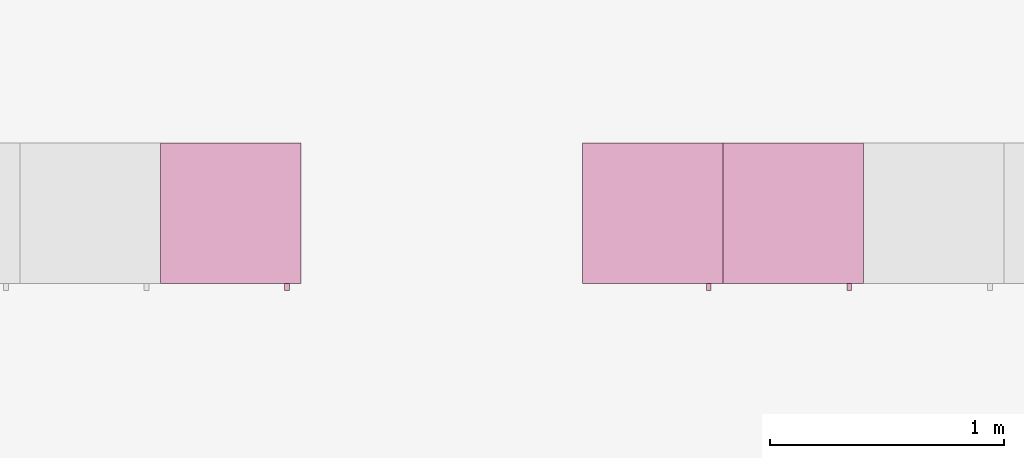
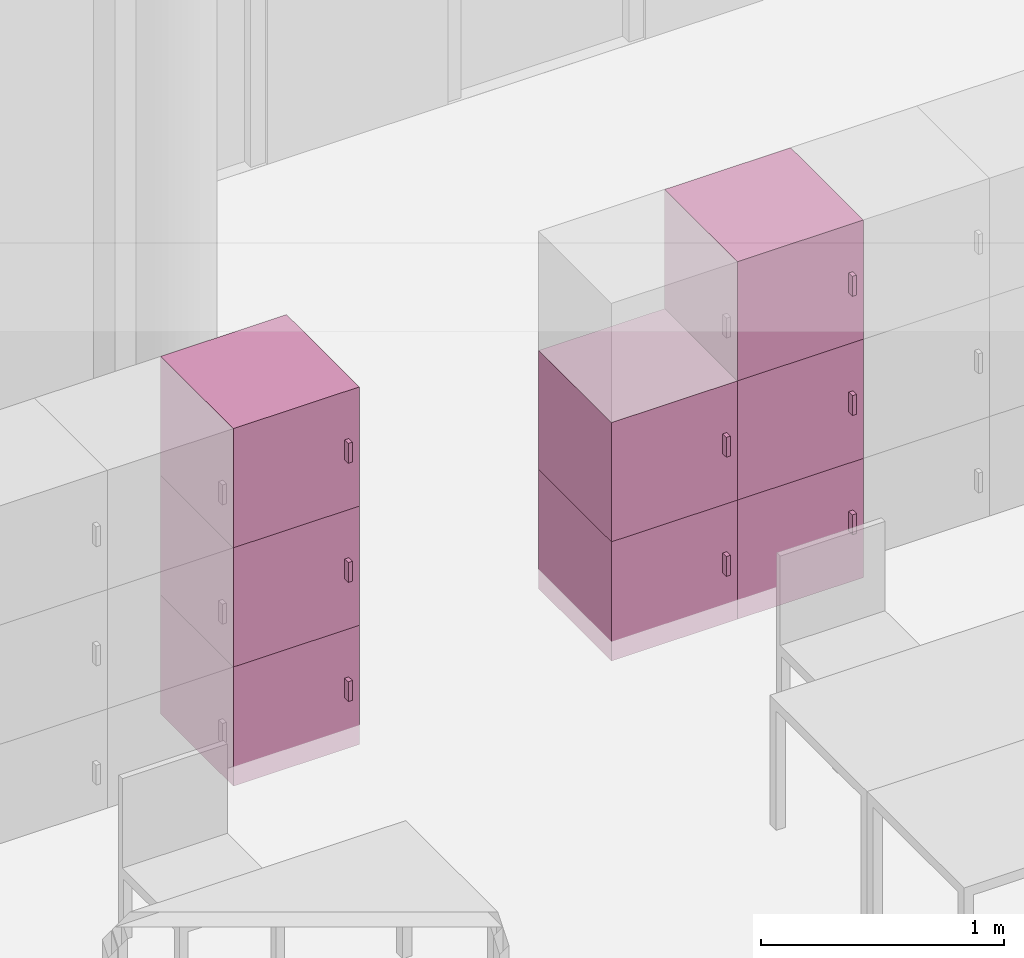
"""IFC4 building model written with IfcOpenShell, lengths in metres."""

import ifcopenshell
import ifcopenshell.guid

model = None  # the IFC model being written
_history = None  # IfcOwnerHistory: only IFC2X3 demands one
_inside = {}  # id of a spatial element -> (the spatial element, [elements in it])
_under = {}  # id of a project, library or spatial element -> (it, [spatial elements below it])
_declared = {}  # id of a project -> (the project, [libraries it declares])
_typed = {}  # id of a type object -> (the type object, [elements of that type])
_made_of = {}  # id of a material, layer set ... -> (it, [elements and type objects made of it])


def new_model(schema):
    """Start an empty IFC model of exactly this schema.

    Asked for "IFC4X3", IfcOpenShell would pick the latest addendum, in which some entities
    have other attributes; the version numbers below select the first issue.
    IFC2X3 requires an IfcOwnerHistory on every rooted entity: one is made here for all.
    """
    global model, _history
    if schema == "IFC4X3":
        model = ifcopenshell.file(schema_version=(4, 3, 0, 0))
    else:
        model = ifcopenshell.file(schema=schema)
    _inside.clear()
    _under.clear()
    _declared.clear()
    _typed.clear()
    _made_of.clear()
    _history = None
    if model.schema == "IFC2X3":
        org = make("IfcOrganization", Name="unknown")
        user = make(
            "IfcPersonAndOrganization",
            ThePerson=make("IfcPerson", FamilyName="unknown"),
            TheOrganization=org,
        )
        app = make(
            "IfcApplication",
            ApplicationDeveloper=org,
            Version="unknown",
            ApplicationFullName="unknown",
            ApplicationIdentifier="unknown",
        )
        _history = make(
            "IfcOwnerHistory",
            OwningUser=user,
            OwningApplication=app,
            ChangeAction="ADDED",
            CreationDate=0,
        )
    return model


def make(cls, **values):
    """One entity of the class cls with the attributes given. An attribute that is None is left unset."""
    return model.create_entity(
        cls, **{name: value for name, value in values.items() if value is not None}
    )


def entity(cls, *values):
    """Any entity or typed value of the class cls, its attributes in the order of the schema. None: left unset."""
    e = model.create_entity(cls)
    for i, value in enumerate(values):
        if value is not None:
            e[i] = value
    return e


def rooted(cls, **values):
    """An entity with a GlobalId (a new one), such as an element, a storey or a relation."""
    return make(cls, GlobalId=ifcopenshell.guid.new(), OwnerHistory=_history, **values)


def si_unit(unit_type, name, prefix=None):
    """IfcSIUnit, for example si_unit("LENGTHUNIT", "METRE", prefix="MILLI")."""
    return make("IfcSIUnit", UnitType=unit_type, Prefix=prefix, Name=name)


def converted_unit(unit_type, name, factor, base, dimensions=None, offset=None):
    """IfcConversionBasedUnit, such as the inch: factor (a typed value) times the base unit."""
    return make(
        "IfcConversionBasedUnit"
        if offset is None
        else "IfcConversionBasedUnitWithOffset",
        ConversionOffset=offset,
        Dimensions=None
        if dimensions is None
        else entity("IfcDimensionalExponents", *dimensions),
        UnitType=unit_type,
        Name=name,
        ConversionFactor=make(
            "IfcMeasureWithUnit", ValueComponent=factor, UnitComponent=base
        ),
    )


def derived_unit(unit_type, elements):
    """IfcDerivedUnit: a product of units, each with its exponent."""
    return make(
        "IfcDerivedUnit",
        Elements=[
            make("IfcDerivedUnitElement", Unit=unit, Exponent=power)
            for unit, power in elements
        ],
        UnitType=unit_type,
    )


def assignment(units):
    """IfcUnitAssignment: the units of a project."""
    return None if units is None else make("IfcUnitAssignment", Units=units)


def point(xyz):
    """IfcCartesianPoint."""
    return None if xyz is None else make("IfcCartesianPoint", Coordinates=xyz)


def direction(xyz):
    """IfcDirection."""
    return None if xyz is None else make("IfcDirection", DirectionRatios=xyz)


def frame(location, z_axis=None, x_axis=None):
    """IfcAxis2Placement3D, a coordinate frame: its origin and axes. An axis left out is left unset."""
    return make(
        "IfcAxis2Placement3D",
        Location=point(location),
        Axis=direction(z_axis),
        RefDirection=direction(x_axis),
    )


def origin():
    """The frame at (0, 0, 0) with its axes left unset."""
    return frame((0.0, 0.0, 0.0))


def place(relative_to, where):
    """IfcLocalPlacement: puts the frame where relative to a parent placement (None: the world)."""
    return make(
        "IfcLocalPlacement", PlacementRelTo=relative_to, RelativePlacement=where
    )


def context(
    kind, dimensions, precision=None, world=None, true_north=None, identifier=None
):
    """IfcGeometricRepresentationContext, for example the 3D "Model" context."""
    return make(
        "IfcGeometricRepresentationContext",
        ContextIdentifier=identifier,
        ContextType=kind,
        CoordinateSpaceDimension=dimensions,
        Precision=precision,
        WorldCoordinateSystem=world,
        TrueNorth=true_north,
    )


def subcontext(parent, identifier, kind, view, scale=None):
    """IfcGeometricRepresentationSubContext, for example "Body" below "Model"."""
    return make(
        "IfcGeometricRepresentationSubContext",
        ContextIdentifier=identifier,
        ContextType=kind,
        ParentContext=parent,
        TargetScale=scale,
        TargetView=view,
    )


def project(units=None, contexts=None):
    """IfcProject with its units and contexts."""
    return rooted(
        "IfcProject",
        Name="project",
        RepresentationContexts=contexts,
        UnitsInContext=assignment(units),
    )


def spatial(cls, under=None, at=None, **own):
    """A site, building, storey or space (cls), placed at a placement, below another one or the project."""
    s = rooted(cls, ObjectPlacement=at, **own)
    if under is not None:
        _under.setdefault(under.id(), (under, []))[1].append(s)
    return s


def faces_of(points, faces, orient=None, outer=None):
    """IfcFace entities. A face is a list of loops; a loop is a list of indices into points, from 0.

    orient and outer hold one flag for each loop. By default every Orientation is true, the
    first loop of a face is its IfcFaceOuterBound and the others are IfcFaceBound.
    """
    made = []
    for i, loops in enumerate(faces):
        bounds = []
        for j, loop in enumerate(loops):
            is_outer = j == 0 if outer is None else outer[i][j]
            bounds.append(
                make(
                    "IfcFaceOuterBound" if is_outer else "IfcFaceBound",
                    Bound=make("IfcPolyLoop", Polygon=[points[k] for k in loop]),
                    Orientation=True if orient is None else orient[i][j],
                )
            )
        made.append(make("IfcFace", Bounds=bounds))
    return made


def faceted_brep(points, faces, orient=None, outer=None, voids=None):
    """IfcFacetedBrep: a solid bounded by flat faces; with voids (closed shells), ...WithVoids."""
    shared = [point(p) for p in points]
    hull = make("IfcClosedShell", CfsFaces=faces_of(shared, faces, orient, outer))
    if voids is None:
        return make("IfcFacetedBrep", Outer=hull)
    return make(
        "IfcFacetedBrepWithVoids",
        Outer=hull,
        Voids=[
            make(cls, CfsFaces=faces_of(shared, fs, o, b)) for cls, fs, o, b in voids
        ],
    )


def shape(context_of_items, identifier, shape_type, items):
    """IfcShapeRepresentation: the items that make up one representation, for example the "Body"."""
    return make(
        "IfcShapeRepresentation",
        ContextOfItems=context_of_items,
        RepresentationIdentifier=identifier,
        RepresentationType=shape_type,
        Items=items,
    )


def made_of(thing, what):
    """Note that an element or type object is made of a material, layer set ...; save() writes the relation."""
    if what is not None:
        _made_of.setdefault(what.id(), (what, []))[1].append(thing)
    return thing


def element(
    cls,
    number,
    at=None,
    inside=None,
    cuts=None,
    type_object=None,
    material=None,
    context=None,
    identifier="Body",
    shape_type=None,
    held_by="IfcProductDefinitionShape",
    body=None,
    shapes=None,
    **own,
):
    """One element of the class cls, such as IfcWall. Its Tag is "e" and its number.

    at: its placement. inside: the storey or other place that contains it. cuts: it is an
    opening in that element (IfcRelVoidsElement). A single representation is given by context,
    identifier, shape_type and body (its items); several are given by shapes. held_by: the class
    of the entity that holds the representations. save() writes the other relations.
    """
    e = rooted(cls, Tag="e%d" % number, ObjectPlacement=at, **own)
    if body is not None:
        shapes = [shape(context, identifier, shape_type, body)]
    if shapes is not None:
        e.Representation = make(held_by, Representations=shapes)
    if inside is not None:
        _inside.setdefault(inside.id(), (inside, []))[1].append(e)
    if cuts is not None:
        rooted(
            "IfcRelVoidsElement", RelatingBuildingElement=cuts, RelatedOpeningElement=e
        )
    if type_object is not None:
        _typed.setdefault(type_object.id(), (type_object, []))[1].append(e)
    return made_of(e, material)


def aggregate(whole, parts):
    """IfcRelAggregates: a whole, such as a stair, and the parts it consists of."""
    return rooted("IfcRelAggregates", RelatingObject=whole, RelatedObjects=parts)


def save(model, path):
    """Write the relations noted so far, then the file.

    IfcRelAggregates (storeys below a building ...), IfcRelContainedInSpatialStructure (elements
    in a storey), IfcRelDefinesByType, IfcRelAssociatesMaterial and IfcRelDeclares: one each for
    every whole, place, type object, material and project.
    """
    for whole, parts in _under.values():
        aggregate(whole, parts)
    for where, things in _inside.values():
        rooted(
            "IfcRelContainedInSpatialStructure",
            RelatedElements=things,
            RelatingStructure=where,
        )
    for kind, things in _typed.values():
        rooted("IfcRelDefinesByType", RelatedObjects=things, RelatingType=kind)
    for what, things in _made_of.values():
        rooted("IfcRelAssociatesMaterial", RelatedObjects=things, RelatingMaterial=what)
    for by, libraries in _declared.values():
        rooted("IfcRelDeclares", RelatingContext=by, RelatedDefinitions=libraries)
    model.write(path)


model = new_model("IFC4")

# Units and contexts
model_context = context("Model", 3, precision=1e-05, world=origin())
body_context = subcontext(model_context, "Body", "Model", "MODEL_VIEW")
ifc_project = project(units=[si_unit("LENGTHUNIT", "METRE"), si_unit("AREAUNIT", "SQUARE_METRE"), si_unit("VOLUMEUNIT", "CUBIC_METRE"), si_unit("MASSUNIT", "GRAM", prefix="KILO"), converted_unit("PLANEANGLEUNIT", "DEGREE", entity("IfcPlaneAngleMeasure", 0.0174532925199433), si_unit("PLANEANGLEUNIT", "RADIAN"), dimensions=[0, 0, 0, 0, 0, 0, 0]), derived_unit("THERMALTRANSMITTANCEUNIT", [(si_unit("POWERUNIT", "WATT"), 1), (si_unit("THERMODYNAMICTEMPERATUREUNIT", "KELVIN"), -1), (si_unit("LENGTHUNIT", "METRE"), -2)]), derived_unit("VOLUMETRICFLOWRATEUNIT", [(si_unit("LENGTHUNIT", "METRE"), 3), (converted_unit("TIMEUNIT", "hour", entity("IfcTimeMeasure", 3600.0), si_unit("TIMEUNIT", "SECOND"), dimensions=[0, 0, 1, 0, 0, 0, 0]), -1), (si_unit("LENGTHUNIT", "METRE"), -1)])], contexts=[model_context])

# Building, storeys
building_placement = place(None, origin())
building = spatial("IfcBuilding", under=ifc_project, at=building_placement, Name="HABITATGE PLURIFAMILIAR", CompositionType="ELEMENT")
storey_1_placement = place(building_placement, frame((0.0, 0.0, 15.28)))
storey_1 = spatial("IfcBuildingStorey", under=building, at=storey_1_placement, Name="PLANTA QUARTA", CompositionType="ELEMENT", Elevation=15.28)
storey_2_placement = place(storey_1_placement, frame((0.0, 0.0, 12.27)))
storey_2 = spatial("IfcBuildingStorey", under=storey_1, at=storey_2_placement, Name="NOU", CompositionType="PARTIAL")

# Furniture
furniture_1_placement = place(storey_2_placement, frame((419.982081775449, 21.5873137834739, -12.37)))
element("IfcFurniture", 1, at=furniture_1_placement, inside=storey_2, Name="Armai 60x60x60_P4", context=body_context, shape_type="Brep", body=[
    faceted_brep([(0.600000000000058, 0.0300000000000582, 0.02), (0.600000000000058, 0.0300000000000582, 0.0), (0.0, 0.0300000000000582, 0.0), (0.0, 0.0300000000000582, 0.02), (0.0, 0.630000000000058, 0.0), (0.0, 0.630000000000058, 0.02), (0.600000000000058, 0.630000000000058, 0.0), (0.600000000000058, 0.630000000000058, 0.02)], [[[0, 1, 2, 3]], [[3, 2, 4, 5]], [[5, 4, 6, 7]], [[7, 6, 1, 0]], [[0, 3, 5, 7]], [[1, 6, 4, 2]]], orient=[[False], [False], [False], [False], [False], [False]]),
    faceted_brep([(0.02, 0.63, 0.58), (0.02, 0.61, 0.58), (0.02, 0.61, 0.02), (0.02, 0.63, 0.02), (0.58, 0.61, 0.02), (0.58, 0.63, 0.02), (0.58, 0.61, 0.58), (0.58, 0.63, 0.58)], [[[0, 1, 2, 3]], [[3, 2, 4, 5]], [[5, 4, 6, 7]], [[7, 6, 1, 0]], [[0, 3, 5, 7]], [[1, 6, 4, 2]]], orient=[[False], [False], [False], [False], [False], [False]]),
    faceted_brep([(0.58, 0.0300000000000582, 0.58), (0.6, 0.0300000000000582, 0.58), (0.6, 0.0300000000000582, 0.02), (0.58, 0.0300000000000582, 0.02), (0.6, 0.630000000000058, 0.02), (0.58, 0.630000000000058, 0.02), (0.6, 0.630000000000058, 0.58), (0.58, 0.630000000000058, 0.58)], [[[0, 1, 2, 3]], [[3, 2, 4, 5]], [[5, 4, 6, 7]], [[7, 6, 1, 0]], [[0, 3, 5, 7]], [[1, 6, 4, 2]]], orient=[[False], [False], [False], [False], [False], [False]]),
    faceted_brep([(0.600000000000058, 0.0500000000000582, 0.58), (0.600000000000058, 0.0300000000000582, 0.58), (0.600000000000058, 0.0300000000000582, 0.02), (0.600000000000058, 0.0500000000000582, 0.02), (0.580000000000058, 0.0300000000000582, 0.02), (0.580000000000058, 0.0500000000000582, 0.02), (0.580000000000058, 0.0300000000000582, 0.58), (0.580000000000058, 0.0500000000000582, 0.58)], [[[0, 1, 2, 3]], [[3, 2, 4, 5]], [[5, 4, 6, 7]], [[7, 6, 1, 0]], [[0, 3, 5, 7]], [[1, 6, 4, 2]]], orient=[[False], [False], [False], [False], [False], [False]]),
    faceted_brep([(0.0, 0.0300000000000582, 0.58), (0.0200000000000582, 0.0300000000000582, 0.58), (0.0200000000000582, 0.0300000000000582, 0.02), (0.0, 0.0300000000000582, 0.02), (0.0200000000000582, 0.630000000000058, 0.02), (0.0, 0.630000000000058, 0.02), (0.0200000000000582, 0.630000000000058, 0.58), (0.0, 0.630000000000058, 0.58)], [[[0, 1, 2, 3]], [[3, 2, 4, 5]], [[5, 4, 6, 7]], [[7, 6, 1, 0]], [[0, 3, 5, 7]], [[1, 6, 4, 2]]], orient=[[False], [False], [False], [False], [False], [False]]),
    faceted_brep([(0.6, 0.03, 0.6), (0.6, 0.03, 0.58), (0.0, 0.03, 0.58), (0.0, 0.03, 0.6), (0.0, 0.63, 0.58), (0.0, 0.63, 0.6), (0.6, 0.63, 0.58), (0.6, 0.63, 0.6)], [[[0, 1, 2, 3]], [[3, 2, 4, 5]], [[5, 4, 6, 7]], [[7, 6, 1, 0]], [[0, 3, 5, 7]], [[1, 6, 4, 2]]], orient=[[False], [False], [False], [False], [False], [False]]),
    faceted_brep([(0.02, 0.05, 0.58), (0.02, 0.03, 0.58), (0.02, 0.03, 0.02), (0.02, 0.05, 0.02), (0.580000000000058, 0.03, 0.02), (0.580000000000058, 0.05, 0.02), (0.580000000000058, 0.03, 0.58), (0.580000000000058, 0.05, 0.58)], [[[0, 1, 2, 3]], [[3, 2, 4, 5]], [[5, 4, 6, 7]], [[7, 6, 1, 0]], [[0, 3, 5, 7]], [[1, 6, 4, 2]]], orient=[[False], [False], [False], [False], [False], [False]]),
    faceted_brep([(0.53, 0.03, 0.358064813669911), (0.53, 0.0, 0.358064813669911), (0.53, 0.0, 0.258064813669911), (0.53, 0.03, 0.258064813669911), (0.55, 0.0, 0.258064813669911), (0.55, 0.03, 0.258064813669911), (0.55, 0.0, 0.358064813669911), (0.55, 0.03, 0.358064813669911)], [[[0, 1, 2, 3]], [[3, 2, 4, 5]], [[5, 4, 6, 7]], [[7, 6, 1, 0]], [[0, 3, 5, 7]], [[1, 6, 4, 2]]], orient=[[False], [False], [False], [False], [False], [False]]),
])
furniture_2_placement = place(storey_2_placement, frame((419.982081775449, 21.5873137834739, -11.77)))
element("IfcFurniture", 2, at=furniture_2_placement, inside=storey_2, Name="Armai 60x60x60_P4", context=body_context, shape_type="Brep", body=[
    faceted_brep([(0.600000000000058, 0.0300000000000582, 0.02), (0.600000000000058, 0.0300000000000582, 0.0), (0.0, 0.0300000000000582, 0.0), (0.0, 0.0300000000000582, 0.02), (0.0, 0.630000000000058, 0.0), (0.0, 0.630000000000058, 0.02), (0.600000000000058, 0.630000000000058, 0.0), (0.600000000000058, 0.630000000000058, 0.02)], [[[0, 1, 2, 3]], [[3, 2, 4, 5]], [[5, 4, 6, 7]], [[7, 6, 1, 0]], [[0, 3, 5, 7]], [[1, 6, 4, 2]]], orient=[[False], [False], [False], [False], [False], [False]]),
    faceted_brep([(0.02, 0.63, 0.58), (0.02, 0.61, 0.58), (0.02, 0.61, 0.02), (0.02, 0.63, 0.02), (0.58, 0.61, 0.02), (0.58, 0.63, 0.02), (0.58, 0.61, 0.58), (0.58, 0.63, 0.58)], [[[0, 1, 2, 3]], [[3, 2, 4, 5]], [[5, 4, 6, 7]], [[7, 6, 1, 0]], [[0, 3, 5, 7]], [[1, 6, 4, 2]]], orient=[[False], [False], [False], [False], [False], [False]]),
    faceted_brep([(0.58, 0.0300000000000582, 0.58), (0.6, 0.0300000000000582, 0.58), (0.6, 0.0300000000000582, 0.02), (0.58, 0.0300000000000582, 0.02), (0.6, 0.630000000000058, 0.02), (0.58, 0.630000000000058, 0.02), (0.6, 0.630000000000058, 0.58), (0.58, 0.630000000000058, 0.58)], [[[0, 1, 2, 3]], [[3, 2, 4, 5]], [[5, 4, 6, 7]], [[7, 6, 1, 0]], [[0, 3, 5, 7]], [[1, 6, 4, 2]]], orient=[[False], [False], [False], [False], [False], [False]]),
    faceted_brep([(0.600000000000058, 0.0500000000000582, 0.58), (0.600000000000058, 0.0300000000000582, 0.58), (0.600000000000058, 0.0300000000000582, 0.02), (0.600000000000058, 0.0500000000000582, 0.02), (0.580000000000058, 0.0300000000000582, 0.02), (0.580000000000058, 0.0500000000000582, 0.02), (0.580000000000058, 0.0300000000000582, 0.58), (0.580000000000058, 0.0500000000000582, 0.58)], [[[0, 1, 2, 3]], [[3, 2, 4, 5]], [[5, 4, 6, 7]], [[7, 6, 1, 0]], [[0, 3, 5, 7]], [[1, 6, 4, 2]]], orient=[[False], [False], [False], [False], [False], [False]]),
    faceted_brep([(0.0, 0.0300000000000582, 0.58), (0.0200000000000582, 0.0300000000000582, 0.58), (0.0200000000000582, 0.0300000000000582, 0.02), (0.0, 0.0300000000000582, 0.02), (0.0200000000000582, 0.630000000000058, 0.02), (0.0, 0.630000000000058, 0.02), (0.0200000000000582, 0.630000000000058, 0.58), (0.0, 0.630000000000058, 0.58)], [[[0, 1, 2, 3]], [[3, 2, 4, 5]], [[5, 4, 6, 7]], [[7, 6, 1, 0]], [[0, 3, 5, 7]], [[1, 6, 4, 2]]], orient=[[False], [False], [False], [False], [False], [False]]),
    faceted_brep([(0.6, 0.03, 0.6), (0.6, 0.03, 0.58), (0.0, 0.03, 0.58), (0.0, 0.03, 0.6), (0.0, 0.63, 0.58), (0.0, 0.63, 0.6), (0.6, 0.63, 0.58), (0.6, 0.63, 0.6)], [[[0, 1, 2, 3]], [[3, 2, 4, 5]], [[5, 4, 6, 7]], [[7, 6, 1, 0]], [[0, 3, 5, 7]], [[1, 6, 4, 2]]], orient=[[False], [False], [False], [False], [False], [False]]),
    faceted_brep([(0.02, 0.05, 0.58), (0.02, 0.03, 0.58), (0.02, 0.03, 0.02), (0.02, 0.05, 0.02), (0.580000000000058, 0.03, 0.02), (0.580000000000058, 0.05, 0.02), (0.580000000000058, 0.03, 0.58), (0.580000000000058, 0.05, 0.58)], [[[0, 1, 2, 3]], [[3, 2, 4, 5]], [[5, 4, 6, 7]], [[7, 6, 1, 0]], [[0, 3, 5, 7]], [[1, 6, 4, 2]]], orient=[[False], [False], [False], [False], [False], [False]]),
    faceted_brep([(0.53, 0.03, 0.358064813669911), (0.53, 0.0, 0.358064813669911), (0.53, 0.0, 0.258064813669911), (0.53, 0.03, 0.258064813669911), (0.55, 0.0, 0.258064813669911), (0.55, 0.03, 0.258064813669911), (0.55, 0.0, 0.358064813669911), (0.55, 0.03, 0.358064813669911)], [[[0, 1, 2, 3]], [[3, 2, 4, 5]], [[5, 4, 6, 7]], [[7, 6, 1, 0]], [[0, 3, 5, 7]], [[1, 6, 4, 2]]], orient=[[False], [False], [False], [False], [False], [False]]),
])
furniture_3_placement = place(storey_2_placement, frame((419.982081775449, 21.5873137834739, -11.17)))
element("IfcFurniture", 3, at=furniture_3_placement, inside=storey_2, Name="Armai 60x60x60_P4", context=body_context, shape_type="Brep", body=[
    faceted_brep([(0.600000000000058, 0.0300000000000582, 0.02), (0.600000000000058, 0.0300000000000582, 0.0), (0.0, 0.0300000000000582, 0.0), (0.0, 0.0300000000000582, 0.02), (0.0, 0.630000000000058, 0.0), (0.0, 0.630000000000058, 0.02), (0.600000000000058, 0.630000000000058, 0.0), (0.600000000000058, 0.630000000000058, 0.02)], [[[0, 1, 2, 3]], [[3, 2, 4, 5]], [[5, 4, 6, 7]], [[7, 6, 1, 0]], [[0, 3, 5, 7]], [[1, 6, 4, 2]]], orient=[[False], [False], [False], [False], [False], [False]]),
    faceted_brep([(0.02, 0.63, 0.58), (0.02, 0.61, 0.58), (0.02, 0.61, 0.02), (0.02, 0.63, 0.02), (0.58, 0.61, 0.02), (0.58, 0.63, 0.02), (0.58, 0.61, 0.58), (0.58, 0.63, 0.58)], [[[0, 1, 2, 3]], [[3, 2, 4, 5]], [[5, 4, 6, 7]], [[7, 6, 1, 0]], [[0, 3, 5, 7]], [[1, 6, 4, 2]]], orient=[[False], [False], [False], [False], [False], [False]]),
    faceted_brep([(0.58, 0.0300000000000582, 0.58), (0.6, 0.0300000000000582, 0.58), (0.6, 0.0300000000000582, 0.02), (0.58, 0.0300000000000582, 0.02), (0.6, 0.630000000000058, 0.02), (0.58, 0.630000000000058, 0.02), (0.6, 0.630000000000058, 0.58), (0.58, 0.630000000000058, 0.58)], [[[0, 1, 2, 3]], [[3, 2, 4, 5]], [[5, 4, 6, 7]], [[7, 6, 1, 0]], [[0, 3, 5, 7]], [[1, 6, 4, 2]]], orient=[[False], [False], [False], [False], [False], [False]]),
    faceted_brep([(0.600000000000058, 0.0500000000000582, 0.58), (0.600000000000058, 0.0300000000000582, 0.58), (0.600000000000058, 0.0300000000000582, 0.02), (0.600000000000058, 0.0500000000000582, 0.02), (0.580000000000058, 0.0300000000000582, 0.02), (0.580000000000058, 0.0500000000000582, 0.02), (0.580000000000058, 0.0300000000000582, 0.58), (0.580000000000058, 0.0500000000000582, 0.58)], [[[0, 1, 2, 3]], [[3, 2, 4, 5]], [[5, 4, 6, 7]], [[7, 6, 1, 0]], [[0, 3, 5, 7]], [[1, 6, 4, 2]]], orient=[[False], [False], [False], [False], [False], [False]]),
    faceted_brep([(0.0, 0.0300000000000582, 0.58), (0.0200000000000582, 0.0300000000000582, 0.58), (0.0200000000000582, 0.0300000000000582, 0.02), (0.0, 0.0300000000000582, 0.02), (0.0200000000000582, 0.630000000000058, 0.02), (0.0, 0.630000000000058, 0.02), (0.0200000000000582, 0.630000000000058, 0.58), (0.0, 0.630000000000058, 0.58)], [[[0, 1, 2, 3]], [[3, 2, 4, 5]], [[5, 4, 6, 7]], [[7, 6, 1, 0]], [[0, 3, 5, 7]], [[1, 6, 4, 2]]], orient=[[False], [False], [False], [False], [False], [False]]),
    faceted_brep([(0.6, 0.03, 0.6), (0.6, 0.03, 0.58), (0.0, 0.03, 0.58), (0.0, 0.03, 0.6), (0.0, 0.63, 0.58), (0.0, 0.63, 0.6), (0.6, 0.63, 0.58), (0.6, 0.63, 0.6)], [[[0, 1, 2, 3]], [[3, 2, 4, 5]], [[5, 4, 6, 7]], [[7, 6, 1, 0]], [[0, 3, 5, 7]], [[1, 6, 4, 2]]], orient=[[False], [False], [False], [False], [False], [False]]),
    faceted_brep([(0.02, 0.05, 0.58), (0.02, 0.03, 0.58), (0.02, 0.03, 0.02), (0.02, 0.05, 0.02), (0.580000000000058, 0.03, 0.02), (0.580000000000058, 0.05, 0.02), (0.580000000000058, 0.03, 0.58), (0.580000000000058, 0.05, 0.58)], [[[0, 1, 2, 3]], [[3, 2, 4, 5]], [[5, 4, 6, 7]], [[7, 6, 1, 0]], [[0, 3, 5, 7]], [[1, 6, 4, 2]]], orient=[[False], [False], [False], [False], [False], [False]]),
    faceted_brep([(0.53, 0.03, 0.358064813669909), (0.53, 0.0, 0.358064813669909), (0.53, 0.0, 0.258064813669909), (0.53, 0.03, 0.258064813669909), (0.55, 0.0, 0.258064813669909), (0.55, 0.03, 0.258064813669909), (0.55, 0.0, 0.358064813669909), (0.55, 0.03, 0.358064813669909)], [[[0, 1, 2, 3]], [[3, 2, 4, 5]], [[5, 4, 6, 7]], [[7, 6, 1, 0]], [[0, 3, 5, 7]], [[1, 6, 4, 2]]], orient=[[False], [False], [False], [False], [False], [False]]),
])
furniture_4_placement = place(storey_2_placement, frame((422.382081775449, 21.587313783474, -12.37)))
element("IfcFurniture", 4, at=furniture_4_placement, inside=storey_2, Name="Armai 60x60x60_P4", context=body_context, shape_type="Brep", body=[
    faceted_brep([(0.600000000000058, 0.0300000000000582, 0.02), (0.600000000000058, 0.0300000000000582, 0.0), (0.0, 0.0300000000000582, 0.0), (0.0, 0.0300000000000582, 0.02), (0.0, 0.630000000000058, 0.0), (0.0, 0.630000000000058, 0.02), (0.600000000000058, 0.630000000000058, 0.0), (0.600000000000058, 0.630000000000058, 0.02)], [[[0, 1, 2, 3]], [[3, 2, 4, 5]], [[5, 4, 6, 7]], [[7, 6, 1, 0]], [[0, 3, 5, 7]], [[1, 6, 4, 2]]], orient=[[False], [False], [False], [False], [False], [False]]),
    faceted_brep([(0.02, 0.63, 0.58), (0.02, 0.61, 0.58), (0.02, 0.61, 0.02), (0.02, 0.63, 0.02), (0.58, 0.61, 0.02), (0.58, 0.63, 0.02), (0.58, 0.61, 0.58), (0.58, 0.63, 0.58)], [[[0, 1, 2, 3]], [[3, 2, 4, 5]], [[5, 4, 6, 7]], [[7, 6, 1, 0]], [[0, 3, 5, 7]], [[1, 6, 4, 2]]], orient=[[False], [False], [False], [False], [False], [False]]),
    faceted_brep([(0.58, 0.0300000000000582, 0.58), (0.6, 0.0300000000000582, 0.58), (0.6, 0.0300000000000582, 0.02), (0.58, 0.0300000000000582, 0.02), (0.6, 0.630000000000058, 0.02), (0.58, 0.630000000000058, 0.02), (0.6, 0.630000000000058, 0.58), (0.58, 0.630000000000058, 0.58)], [[[0, 1, 2, 3]], [[3, 2, 4, 5]], [[5, 4, 6, 7]], [[7, 6, 1, 0]], [[0, 3, 5, 7]], [[1, 6, 4, 2]]], orient=[[False], [False], [False], [False], [False], [False]]),
    faceted_brep([(0.600000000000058, 0.0500000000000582, 0.58), (0.600000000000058, 0.0300000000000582, 0.58), (0.600000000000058, 0.0300000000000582, 0.02), (0.600000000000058, 0.0500000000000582, 0.02), (0.580000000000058, 0.0300000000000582, 0.02), (0.580000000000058, 0.0500000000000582, 0.02), (0.580000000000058, 0.0300000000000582, 0.58), (0.580000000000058, 0.0500000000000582, 0.58)], [[[0, 1, 2, 3]], [[3, 2, 4, 5]], [[5, 4, 6, 7]], [[7, 6, 1, 0]], [[0, 3, 5, 7]], [[1, 6, 4, 2]]], orient=[[False], [False], [False], [False], [False], [False]]),
    faceted_brep([(0.0, 0.0300000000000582, 0.58), (0.0200000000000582, 0.0300000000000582, 0.58), (0.0200000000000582, 0.0300000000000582, 0.02), (0.0, 0.0300000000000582, 0.02), (0.0200000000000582, 0.630000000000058, 0.02), (0.0, 0.630000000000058, 0.02), (0.0200000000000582, 0.630000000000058, 0.58), (0.0, 0.630000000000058, 0.58)], [[[0, 1, 2, 3]], [[3, 2, 4, 5]], [[5, 4, 6, 7]], [[7, 6, 1, 0]], [[0, 3, 5, 7]], [[1, 6, 4, 2]]], orient=[[False], [False], [False], [False], [False], [False]]),
    faceted_brep([(0.6, 0.03, 0.6), (0.6, 0.03, 0.58), (0.0, 0.03, 0.58), (0.0, 0.03, 0.6), (0.0, 0.63, 0.58), (0.0, 0.63, 0.6), (0.6, 0.63, 0.58), (0.6, 0.63, 0.6)], [[[0, 1, 2, 3]], [[3, 2, 4, 5]], [[5, 4, 6, 7]], [[7, 6, 1, 0]], [[0, 3, 5, 7]], [[1, 6, 4, 2]]], orient=[[False], [False], [False], [False], [False], [False]]),
    faceted_brep([(0.02, 0.05, 0.58), (0.02, 0.03, 0.58), (0.02, 0.03, 0.02), (0.02, 0.05, 0.02), (0.580000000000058, 0.03, 0.02), (0.580000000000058, 0.05, 0.02), (0.580000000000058, 0.03, 0.58), (0.580000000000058, 0.05, 0.58)], [[[0, 1, 2, 3]], [[3, 2, 4, 5]], [[5, 4, 6, 7]], [[7, 6, 1, 0]], [[0, 3, 5, 7]], [[1, 6, 4, 2]]], orient=[[False], [False], [False], [False], [False], [False]]),
    faceted_brep([(0.53, 0.03, 0.358064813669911), (0.53, 0.0, 0.358064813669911), (0.53, 0.0, 0.258064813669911), (0.53, 0.03, 0.258064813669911), (0.55, 0.0, 0.258064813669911), (0.55, 0.03, 0.258064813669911), (0.55, 0.0, 0.358064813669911), (0.55, 0.03, 0.358064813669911)], [[[0, 1, 2, 3]], [[3, 2, 4, 5]], [[5, 4, 6, 7]], [[7, 6, 1, 0]], [[0, 3, 5, 7]], [[1, 6, 4, 2]]], orient=[[False], [False], [False], [False], [False], [False]]),
])
furniture_5_placement = place(storey_2_placement, frame((421.782081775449, 21.587313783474, -12.37)))
element("IfcFurniture", 5, at=furniture_5_placement, inside=storey_2, Name="Armai 60x60x60_P4", context=body_context, shape_type="Brep", body=[
    faceted_brep([(0.600000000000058, 0.0300000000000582, 0.02), (0.600000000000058, 0.0300000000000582, 0.0), (0.0, 0.0300000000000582, 0.0), (0.0, 0.0300000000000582, 0.02), (0.0, 0.630000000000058, 0.0), (0.0, 0.630000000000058, 0.02), (0.600000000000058, 0.630000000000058, 0.0), (0.600000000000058, 0.630000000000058, 0.02)], [[[0, 1, 2, 3]], [[3, 2, 4, 5]], [[5, 4, 6, 7]], [[7, 6, 1, 0]], [[0, 3, 5, 7]], [[1, 6, 4, 2]]], orient=[[False], [False], [False], [False], [False], [False]]),
    faceted_brep([(0.02, 0.63, 0.58), (0.02, 0.61, 0.58), (0.02, 0.61, 0.02), (0.02, 0.63, 0.02), (0.58, 0.61, 0.02), (0.58, 0.63, 0.02), (0.58, 0.61, 0.58), (0.58, 0.63, 0.58)], [[[0, 1, 2, 3]], [[3, 2, 4, 5]], [[5, 4, 6, 7]], [[7, 6, 1, 0]], [[0, 3, 5, 7]], [[1, 6, 4, 2]]], orient=[[False], [False], [False], [False], [False], [False]]),
    faceted_brep([(0.58, 0.0300000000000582, 0.58), (0.6, 0.0300000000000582, 0.58), (0.6, 0.0300000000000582, 0.02), (0.58, 0.0300000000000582, 0.02), (0.6, 0.630000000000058, 0.02), (0.58, 0.630000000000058, 0.02), (0.6, 0.630000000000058, 0.58), (0.58, 0.630000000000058, 0.58)], [[[0, 1, 2, 3]], [[3, 2, 4, 5]], [[5, 4, 6, 7]], [[7, 6, 1, 0]], [[0, 3, 5, 7]], [[1, 6, 4, 2]]], orient=[[False], [False], [False], [False], [False], [False]]),
    faceted_brep([(0.600000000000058, 0.0500000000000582, 0.58), (0.600000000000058, 0.0300000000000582, 0.58), (0.600000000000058, 0.0300000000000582, 0.02), (0.600000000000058, 0.0500000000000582, 0.02), (0.580000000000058, 0.0300000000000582, 0.02), (0.580000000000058, 0.0500000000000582, 0.02), (0.580000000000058, 0.0300000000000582, 0.58), (0.580000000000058, 0.0500000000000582, 0.58)], [[[0, 1, 2, 3]], [[3, 2, 4, 5]], [[5, 4, 6, 7]], [[7, 6, 1, 0]], [[0, 3, 5, 7]], [[1, 6, 4, 2]]], orient=[[False], [False], [False], [False], [False], [False]]),
    faceted_brep([(0.0, 0.0300000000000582, 0.58), (0.0200000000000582, 0.0300000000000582, 0.58), (0.0200000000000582, 0.0300000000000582, 0.02), (0.0, 0.0300000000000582, 0.02), (0.0200000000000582, 0.630000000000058, 0.02), (0.0, 0.630000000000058, 0.02), (0.0200000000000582, 0.630000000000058, 0.58), (0.0, 0.630000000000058, 0.58)], [[[0, 1, 2, 3]], [[3, 2, 4, 5]], [[5, 4, 6, 7]], [[7, 6, 1, 0]], [[0, 3, 5, 7]], [[1, 6, 4, 2]]], orient=[[False], [False], [False], [False], [False], [False]]),
    faceted_brep([(0.6, 0.03, 0.6), (0.6, 0.03, 0.58), (0.0, 0.03, 0.58), (0.0, 0.03, 0.6), (0.0, 0.63, 0.58), (0.0, 0.63, 0.6), (0.6, 0.63, 0.58), (0.6, 0.63, 0.6)], [[[0, 1, 2, 3]], [[3, 2, 4, 5]], [[5, 4, 6, 7]], [[7, 6, 1, 0]], [[0, 3, 5, 7]], [[1, 6, 4, 2]]], orient=[[False], [False], [False], [False], [False], [False]]),
    faceted_brep([(0.02, 0.05, 0.58), (0.02, 0.03, 0.58), (0.02, 0.03, 0.02), (0.02, 0.05, 0.02), (0.580000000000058, 0.03, 0.02), (0.580000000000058, 0.05, 0.02), (0.580000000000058, 0.03, 0.58), (0.580000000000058, 0.05, 0.58)], [[[0, 1, 2, 3]], [[3, 2, 4, 5]], [[5, 4, 6, 7]], [[7, 6, 1, 0]], [[0, 3, 5, 7]], [[1, 6, 4, 2]]], orient=[[False], [False], [False], [False], [False], [False]]),
    faceted_brep([(0.53, 0.03, 0.358064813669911), (0.53, 0.0, 0.358064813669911), (0.53, 0.0, 0.258064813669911), (0.53, 0.03, 0.258064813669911), (0.55, 0.0, 0.258064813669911), (0.55, 0.03, 0.258064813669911), (0.55, 0.0, 0.358064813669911), (0.55, 0.03, 0.358064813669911)], [[[0, 1, 2, 3]], [[3, 2, 4, 5]], [[5, 4, 6, 7]], [[7, 6, 1, 0]], [[0, 3, 5, 7]], [[1, 6, 4, 2]]], orient=[[False], [False], [False], [False], [False], [False]]),
])
furniture_6_placement = place(storey_2_placement, frame((422.382081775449, 21.587313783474, -11.77)))
element("IfcFurniture", 6, at=furniture_6_placement, inside=storey_2, Name="Armai 60x60x60_P4", context=body_context, shape_type="Brep", body=[
    faceted_brep([(0.600000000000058, 0.0300000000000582, 0.02), (0.600000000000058, 0.0300000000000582, 0.0), (0.0, 0.0300000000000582, 0.0), (0.0, 0.0300000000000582, 0.02), (0.0, 0.630000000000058, 0.0), (0.0, 0.630000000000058, 0.02), (0.600000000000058, 0.630000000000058, 0.0), (0.600000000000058, 0.630000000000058, 0.02)], [[[0, 1, 2, 3]], [[3, 2, 4, 5]], [[5, 4, 6, 7]], [[7, 6, 1, 0]], [[0, 3, 5, 7]], [[1, 6, 4, 2]]], orient=[[False], [False], [False], [False], [False], [False]]),
    faceted_brep([(0.02, 0.63, 0.58), (0.02, 0.61, 0.58), (0.02, 0.61, 0.02), (0.02, 0.63, 0.02), (0.58, 0.61, 0.02), (0.58, 0.63, 0.02), (0.58, 0.61, 0.58), (0.58, 0.63, 0.58)], [[[0, 1, 2, 3]], [[3, 2, 4, 5]], [[5, 4, 6, 7]], [[7, 6, 1, 0]], [[0, 3, 5, 7]], [[1, 6, 4, 2]]], orient=[[False], [False], [False], [False], [False], [False]]),
    faceted_brep([(0.58, 0.0300000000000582, 0.58), (0.6, 0.0300000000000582, 0.58), (0.6, 0.0300000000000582, 0.02), (0.58, 0.0300000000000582, 0.02), (0.6, 0.630000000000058, 0.02), (0.58, 0.630000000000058, 0.02), (0.6, 0.630000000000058, 0.58), (0.58, 0.630000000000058, 0.58)], [[[0, 1, 2, 3]], [[3, 2, 4, 5]], [[5, 4, 6, 7]], [[7, 6, 1, 0]], [[0, 3, 5, 7]], [[1, 6, 4, 2]]], orient=[[False], [False], [False], [False], [False], [False]]),
    faceted_brep([(0.600000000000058, 0.0500000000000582, 0.58), (0.600000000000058, 0.0300000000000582, 0.58), (0.600000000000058, 0.0300000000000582, 0.02), (0.600000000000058, 0.0500000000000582, 0.02), (0.580000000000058, 0.0300000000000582, 0.02), (0.580000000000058, 0.0500000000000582, 0.02), (0.580000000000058, 0.0300000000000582, 0.58), (0.580000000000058, 0.0500000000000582, 0.58)], [[[0, 1, 2, 3]], [[3, 2, 4, 5]], [[5, 4, 6, 7]], [[7, 6, 1, 0]], [[0, 3, 5, 7]], [[1, 6, 4, 2]]], orient=[[False], [False], [False], [False], [False], [False]]),
    faceted_brep([(0.0, 0.0300000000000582, 0.58), (0.0200000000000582, 0.0300000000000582, 0.58), (0.0200000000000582, 0.0300000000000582, 0.02), (0.0, 0.0300000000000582, 0.02), (0.0200000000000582, 0.630000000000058, 0.02), (0.0, 0.630000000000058, 0.02), (0.0200000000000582, 0.630000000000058, 0.58), (0.0, 0.630000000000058, 0.58)], [[[0, 1, 2, 3]], [[3, 2, 4, 5]], [[5, 4, 6, 7]], [[7, 6, 1, 0]], [[0, 3, 5, 7]], [[1, 6, 4, 2]]], orient=[[False], [False], [False], [False], [False], [False]]),
    faceted_brep([(0.6, 0.03, 0.6), (0.6, 0.03, 0.58), (0.0, 0.03, 0.58), (0.0, 0.03, 0.6), (0.0, 0.63, 0.58), (0.0, 0.63, 0.6), (0.6, 0.63, 0.58), (0.6, 0.63, 0.6)], [[[0, 1, 2, 3]], [[3, 2, 4, 5]], [[5, 4, 6, 7]], [[7, 6, 1, 0]], [[0, 3, 5, 7]], [[1, 6, 4, 2]]], orient=[[False], [False], [False], [False], [False], [False]]),
    faceted_brep([(0.02, 0.05, 0.58), (0.02, 0.03, 0.58), (0.02, 0.03, 0.02), (0.02, 0.05, 0.02), (0.580000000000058, 0.03, 0.02), (0.580000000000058, 0.05, 0.02), (0.580000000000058, 0.03, 0.58), (0.580000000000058, 0.05, 0.58)], [[[0, 1, 2, 3]], [[3, 2, 4, 5]], [[5, 4, 6, 7]], [[7, 6, 1, 0]], [[0, 3, 5, 7]], [[1, 6, 4, 2]]], orient=[[False], [False], [False], [False], [False], [False]]),
    faceted_brep([(0.53, 0.03, 0.358064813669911), (0.53, 0.0, 0.358064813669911), (0.53, 0.0, 0.258064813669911), (0.53, 0.03, 0.258064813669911), (0.55, 0.0, 0.258064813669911), (0.55, 0.03, 0.258064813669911), (0.55, 0.0, 0.358064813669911), (0.55, 0.03, 0.358064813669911)], [[[0, 1, 2, 3]], [[3, 2, 4, 5]], [[5, 4, 6, 7]], [[7, 6, 1, 0]], [[0, 3, 5, 7]], [[1, 6, 4, 2]]], orient=[[False], [False], [False], [False], [False], [False]]),
])
furniture_7_placement = place(storey_2_placement, frame((421.782081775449, 21.587313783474, -11.77)))
element("IfcFurniture", 7, at=furniture_7_placement, inside=storey_2, Name="Armai 60x60x60_P4", context=body_context, shape_type="Brep", body=[
    faceted_brep([(0.600000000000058, 0.0300000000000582, 0.02), (0.600000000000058, 0.0300000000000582, 0.0), (0.0, 0.0300000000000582, 0.0), (0.0, 0.0300000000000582, 0.02), (0.0, 0.630000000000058, 0.0), (0.0, 0.630000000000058, 0.02), (0.600000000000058, 0.630000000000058, 0.0), (0.600000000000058, 0.630000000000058, 0.02)], [[[0, 1, 2, 3]], [[3, 2, 4, 5]], [[5, 4, 6, 7]], [[7, 6, 1, 0]], [[0, 3, 5, 7]], [[1, 6, 4, 2]]], orient=[[False], [False], [False], [False], [False], [False]]),
    faceted_brep([(0.02, 0.63, 0.58), (0.02, 0.61, 0.58), (0.02, 0.61, 0.02), (0.02, 0.63, 0.02), (0.58, 0.61, 0.02), (0.58, 0.63, 0.02), (0.58, 0.61, 0.58), (0.58, 0.63, 0.58)], [[[0, 1, 2, 3]], [[3, 2, 4, 5]], [[5, 4, 6, 7]], [[7, 6, 1, 0]], [[0, 3, 5, 7]], [[1, 6, 4, 2]]], orient=[[False], [False], [False], [False], [False], [False]]),
    faceted_brep([(0.58, 0.0300000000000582, 0.58), (0.6, 0.0300000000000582, 0.58), (0.6, 0.0300000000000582, 0.02), (0.58, 0.0300000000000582, 0.02), (0.6, 0.630000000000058, 0.02), (0.58, 0.630000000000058, 0.02), (0.6, 0.630000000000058, 0.58), (0.58, 0.630000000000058, 0.58)], [[[0, 1, 2, 3]], [[3, 2, 4, 5]], [[5, 4, 6, 7]], [[7, 6, 1, 0]], [[0, 3, 5, 7]], [[1, 6, 4, 2]]], orient=[[False], [False], [False], [False], [False], [False]]),
    faceted_brep([(0.600000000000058, 0.0500000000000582, 0.58), (0.600000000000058, 0.0300000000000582, 0.58), (0.600000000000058, 0.0300000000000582, 0.02), (0.600000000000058, 0.0500000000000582, 0.02), (0.580000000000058, 0.0300000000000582, 0.02), (0.580000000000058, 0.0500000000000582, 0.02), (0.580000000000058, 0.0300000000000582, 0.58), (0.580000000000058, 0.0500000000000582, 0.58)], [[[0, 1, 2, 3]], [[3, 2, 4, 5]], [[5, 4, 6, 7]], [[7, 6, 1, 0]], [[0, 3, 5, 7]], [[1, 6, 4, 2]]], orient=[[False], [False], [False], [False], [False], [False]]),
    faceted_brep([(0.0, 0.0300000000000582, 0.58), (0.0200000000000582, 0.0300000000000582, 0.58), (0.0200000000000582, 0.0300000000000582, 0.02), (0.0, 0.0300000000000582, 0.02), (0.0200000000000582, 0.630000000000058, 0.02), (0.0, 0.630000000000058, 0.02), (0.0200000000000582, 0.630000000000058, 0.58), (0.0, 0.630000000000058, 0.58)], [[[0, 1, 2, 3]], [[3, 2, 4, 5]], [[5, 4, 6, 7]], [[7, 6, 1, 0]], [[0, 3, 5, 7]], [[1, 6, 4, 2]]], orient=[[False], [False], [False], [False], [False], [False]]),
    faceted_brep([(0.6, 0.03, 0.6), (0.6, 0.03, 0.58), (0.0, 0.03, 0.58), (0.0, 0.03, 0.6), (0.0, 0.63, 0.58), (0.0, 0.63, 0.6), (0.6, 0.63, 0.58), (0.6, 0.63, 0.6)], [[[0, 1, 2, 3]], [[3, 2, 4, 5]], [[5, 4, 6, 7]], [[7, 6, 1, 0]], [[0, 3, 5, 7]], [[1, 6, 4, 2]]], orient=[[False], [False], [False], [False], [False], [False]]),
    faceted_brep([(0.02, 0.05, 0.58), (0.02, 0.03, 0.58), (0.02, 0.03, 0.02), (0.02, 0.05, 0.02), (0.580000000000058, 0.03, 0.02), (0.580000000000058, 0.05, 0.02), (0.580000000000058, 0.03, 0.58), (0.580000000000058, 0.05, 0.58)], [[[0, 1, 2, 3]], [[3, 2, 4, 5]], [[5, 4, 6, 7]], [[7, 6, 1, 0]], [[0, 3, 5, 7]], [[1, 6, 4, 2]]], orient=[[False], [False], [False], [False], [False], [False]]),
    faceted_brep([(0.53, 0.03, 0.358064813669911), (0.53, 0.0, 0.358064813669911), (0.53, 0.0, 0.258064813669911), (0.53, 0.03, 0.258064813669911), (0.55, 0.0, 0.258064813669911), (0.55, 0.03, 0.258064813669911), (0.55, 0.0, 0.358064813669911), (0.55, 0.03, 0.358064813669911)], [[[0, 1, 2, 3]], [[3, 2, 4, 5]], [[5, 4, 6, 7]], [[7, 6, 1, 0]], [[0, 3, 5, 7]], [[1, 6, 4, 2]]], orient=[[False], [False], [False], [False], [False], [False]]),
])
furniture_8_placement = place(storey_2_placement, frame((422.382081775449, 21.587313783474, -11.17)))
element("IfcFurniture", 8, at=furniture_8_placement, inside=storey_2, Name="Armai 60x60x60_P4", context=body_context, shape_type="Brep", body=[
    faceted_brep([(0.600000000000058, 0.0300000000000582, 0.02), (0.600000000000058, 0.0300000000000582, 0.0), (0.0, 0.0300000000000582, 0.0), (0.0, 0.0300000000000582, 0.02), (0.0, 0.630000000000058, 0.0), (0.0, 0.630000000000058, 0.02), (0.600000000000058, 0.630000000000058, 0.0), (0.600000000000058, 0.630000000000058, 0.02)], [[[0, 1, 2, 3]], [[3, 2, 4, 5]], [[5, 4, 6, 7]], [[7, 6, 1, 0]], [[0, 3, 5, 7]], [[1, 6, 4, 2]]], orient=[[False], [False], [False], [False], [False], [False]]),
    faceted_brep([(0.02, 0.63, 0.58), (0.02, 0.61, 0.58), (0.02, 0.61, 0.02), (0.02, 0.63, 0.02), (0.58, 0.61, 0.02), (0.58, 0.63, 0.02), (0.58, 0.61, 0.58), (0.58, 0.63, 0.58)], [[[0, 1, 2, 3]], [[3, 2, 4, 5]], [[5, 4, 6, 7]], [[7, 6, 1, 0]], [[0, 3, 5, 7]], [[1, 6, 4, 2]]], orient=[[False], [False], [False], [False], [False], [False]]),
    faceted_brep([(0.58, 0.0300000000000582, 0.58), (0.6, 0.0300000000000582, 0.58), (0.6, 0.0300000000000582, 0.02), (0.58, 0.0300000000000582, 0.02), (0.6, 0.630000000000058, 0.02), (0.58, 0.630000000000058, 0.02), (0.6, 0.630000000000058, 0.58), (0.58, 0.630000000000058, 0.58)], [[[0, 1, 2, 3]], [[3, 2, 4, 5]], [[5, 4, 6, 7]], [[7, 6, 1, 0]], [[0, 3, 5, 7]], [[1, 6, 4, 2]]], orient=[[False], [False], [False], [False], [False], [False]]),
    faceted_brep([(0.600000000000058, 0.0500000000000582, 0.58), (0.600000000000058, 0.0300000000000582, 0.58), (0.600000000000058, 0.0300000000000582, 0.02), (0.600000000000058, 0.0500000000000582, 0.02), (0.580000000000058, 0.0300000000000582, 0.02), (0.580000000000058, 0.0500000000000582, 0.02), (0.580000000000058, 0.0300000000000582, 0.58), (0.580000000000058, 0.0500000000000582, 0.58)], [[[0, 1, 2, 3]], [[3, 2, 4, 5]], [[5, 4, 6, 7]], [[7, 6, 1, 0]], [[0, 3, 5, 7]], [[1, 6, 4, 2]]], orient=[[False], [False], [False], [False], [False], [False]]),
    faceted_brep([(0.0, 0.0300000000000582, 0.58), (0.0200000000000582, 0.0300000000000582, 0.58), (0.0200000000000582, 0.0300000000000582, 0.02), (0.0, 0.0300000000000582, 0.02), (0.0200000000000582, 0.630000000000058, 0.02), (0.0, 0.630000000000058, 0.02), (0.0200000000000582, 0.630000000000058, 0.58), (0.0, 0.630000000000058, 0.58)], [[[0, 1, 2, 3]], [[3, 2, 4, 5]], [[5, 4, 6, 7]], [[7, 6, 1, 0]], [[0, 3, 5, 7]], [[1, 6, 4, 2]]], orient=[[False], [False], [False], [False], [False], [False]]),
    faceted_brep([(0.6, 0.03, 0.6), (0.6, 0.03, 0.58), (0.0, 0.03, 0.58), (0.0, 0.03, 0.6), (0.0, 0.63, 0.58), (0.0, 0.63, 0.6), (0.6, 0.63, 0.58), (0.6, 0.63, 0.6)], [[[0, 1, 2, 3]], [[3, 2, 4, 5]], [[5, 4, 6, 7]], [[7, 6, 1, 0]], [[0, 3, 5, 7]], [[1, 6, 4, 2]]], orient=[[False], [False], [False], [False], [False], [False]]),
    faceted_brep([(0.02, 0.05, 0.58), (0.02, 0.03, 0.58), (0.02, 0.03, 0.02), (0.02, 0.05, 0.02), (0.580000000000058, 0.03, 0.02), (0.580000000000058, 0.05, 0.02), (0.580000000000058, 0.03, 0.58), (0.580000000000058, 0.05, 0.58)], [[[0, 1, 2, 3]], [[3, 2, 4, 5]], [[5, 4, 6, 7]], [[7, 6, 1, 0]], [[0, 3, 5, 7]], [[1, 6, 4, 2]]], orient=[[False], [False], [False], [False], [False], [False]]),
    faceted_brep([(0.53, 0.03, 0.358064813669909), (0.53, 0.0, 0.358064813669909), (0.53, 0.0, 0.258064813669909), (0.53, 0.03, 0.258064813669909), (0.55, 0.0, 0.258064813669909), (0.55, 0.03, 0.258064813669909), (0.55, 0.0, 0.358064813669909), (0.55, 0.03, 0.358064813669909)], [[[0, 1, 2, 3]], [[3, 2, 4, 5]], [[5, 4, 6, 7]], [[7, 6, 1, 0]], [[0, 3, 5, 7]], [[1, 6, 4, 2]]], orient=[[False], [False], [False], [False], [False], [False]]),
])

save(model, "model.ifc")
